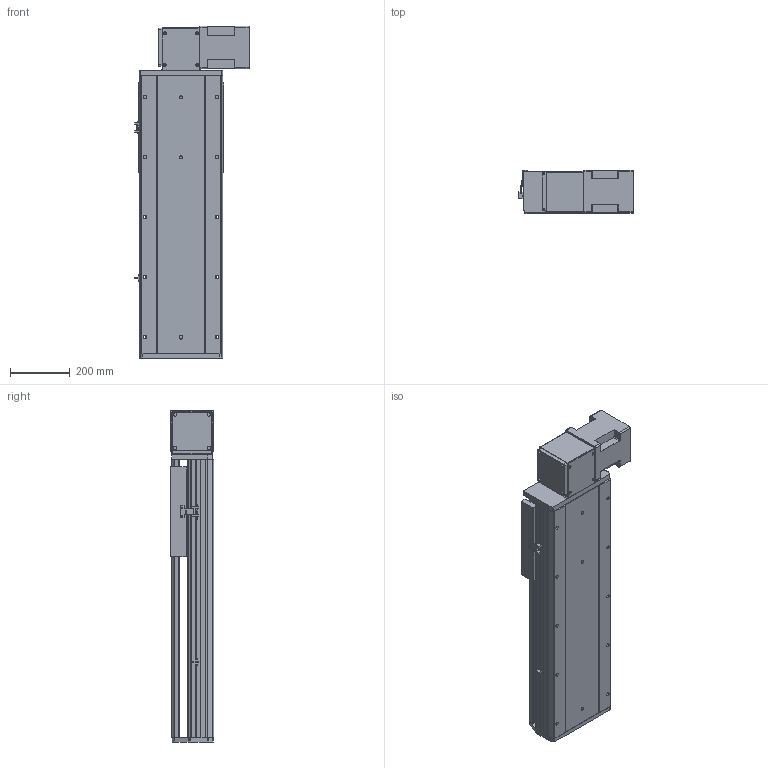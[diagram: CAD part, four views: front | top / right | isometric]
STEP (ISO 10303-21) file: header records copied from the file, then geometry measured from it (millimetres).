
FILE_DESCRIPTION (( 'STEP AP214' ), '1' );
FILE_NAME ('RTB28S-XX-500-BL-M100-XX-C4.STEP', '2025-12-22T02:17:07', ( '' ), ( '' ), 'SwSTEP 2.0', 'SolidWorks 2018', '' );
FILE_SCHEMA (( 'AUTOMOTIVE_DESIGN' ));
Length unit declared in the file: millimetre
Products named in the file (4): RTB28S-GY-011^RTB28S-XX-XX-BL-M100-XX-C4; RTB28S-GY-008^RTB28S-XX-XX-BL-M100-XX-C4; RTB28S-GY-004^RTB28S-XX-XX-BL-M100-XX-C4; RTB28S-XX-500-BL-M100-XX-C4
Assembly tree (3 placements, depth 2):
  RTB28S-XX-500-BL-M100-XX-C4
    RTB28S-GY-011^RTB28S-XX-XX-BL-M100-XX-C4
    RTB28S-GY-004^RTB28S-XX-XX-BL-M100-XX-C4
    RTB28S-GY-008^RTB28S-XX-XX-BL-M100-XX-C4
Bounding box: 380.7 x 145 x 1107 mm (x, y, z)
Volume: 21745659.6 mm3; surface area: 2149585.2 mm2
Topology: 3 solids, 4 shells, 758 faces, 1998 edges, 1268 vertices
Faces by surface type: plane 339, cylinder 335, cone 80, torus 4
Entity records: 28055 total; most frequent: CARTESIAN_POINT 4552, DIRECTION 4224, ORIENTED_EDGE 3932, EDGE_CURVE 1966, AXIS2_PLACEMENT_3D 1512, VERTEX_POINT 1268, VECTOR 1200, LINE 1200
